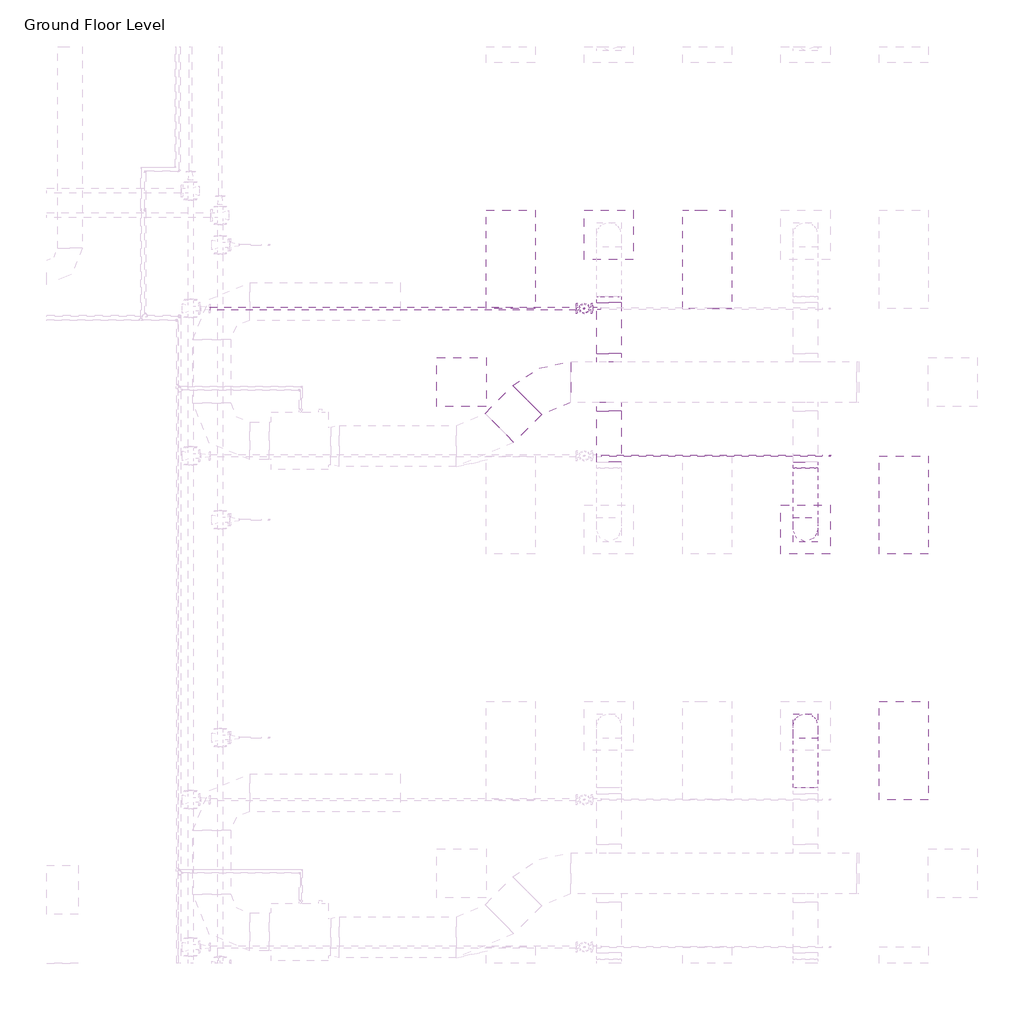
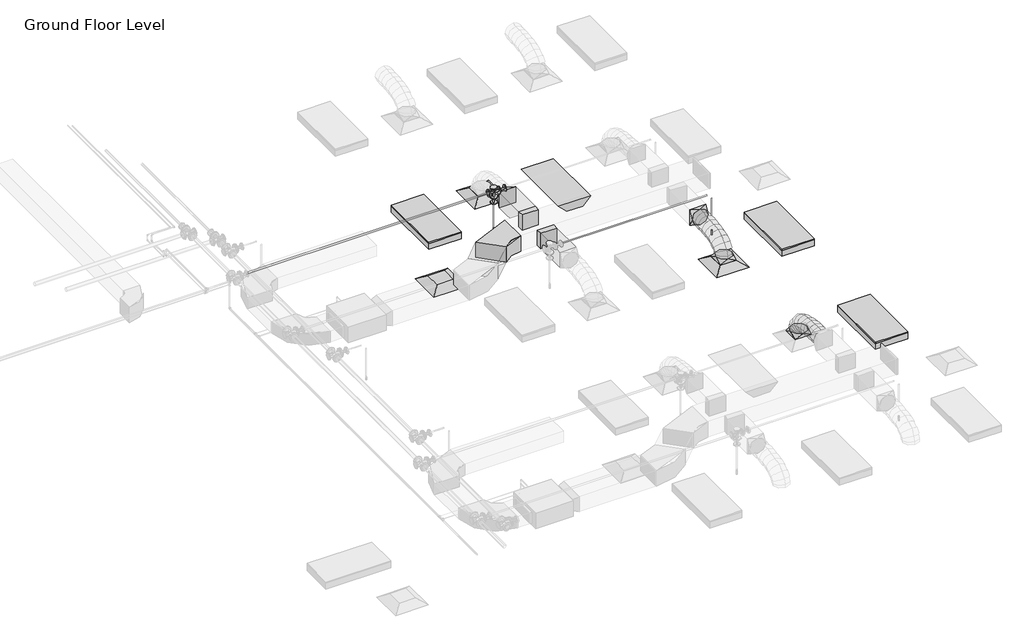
# One storey, part 69 of 74: 7 duct fittings, 5 duct segments, 4 light fixtures, 4 pipe segments, 3 air terminals, 3 pipe fittings, 2 fire suppression terminals.
"""IFC4 building model written with IfcOpenShell, lengths in millimetres."""

from ifc_helpers import new_model, si_unit, point, frame, frame_2d, origin, place, context, project, spatial, polyline, circle_curve, ellipse_curve, trimmed, segment, composite_curve, outline, extrude, transform, mapped, element, save
from ifc_brep_helpers import plane_surface, cylinder_surface, advanced_brep
from components import m_return_diffuser_600_x_600_face_300_x_300_connection_ff221211, m_rectangular_elbow_radius_1_5_w_acc56c25, m_rectangular_takeoff_standard_cb0ccb98, m_rectangular_takeoff_standard_2be5eba1, m_rectangular_to_round_transition_angle_45_degree_641efff0, m_sprinkler_dry_pendent_hosted_15_mm_dry_pendent_9bda8e11, m_emergency_recessed_lighting_fixture_600x1200_277_5b10b25d, m_troffer_light_parabolic_rectangular1_0600x1200mm_4_lamp_86473d4a, m_reducer_flanged_cs_class_150_standard_ccf252ad, m_tee_round_base_flanged_cs_class_150_standard_7e5987a1

model = new_model("IFC4")

# Units and contexts
model_context = context("Model", 3, world=origin())
ifc_project = project(units=[si_unit("LENGTHUNIT", "METRE", prefix="MILLI")], contexts=[model_context])

# Site, building, storey
site = spatial("IfcSite", under=ifc_project)
building = spatial("IfcBuilding", under=site)
storey = spatial("IfcBuildingStorey", under=building, Name="Ground Floor Level", Elevation=900.0)

# Air terminals
placement = place(None, origin())
m_return_diffuser_600_x_600_face_300_x_300_connection_shape = m_return_diffuser_600_x_600_face_300_x_300_connection_ff221211(model_context)
element("IfcAirTerminal", 1, ObjectType="M_Return Diffuser : 600 x 600 Face 300 x 300 Connection", at=placement, inside=storey, context=model_context, shape_type="MappedRepresentation", body=[
    mapped(m_return_diffuser_600_x_600_face_300_x_300_connection_shape, transform((8942.7672395, 12735.2153534, 3650.0), x_axis=(1.0, 0.0, 0.0), y_axis=(0.0, 1.0, 0.0), z_axis=(0.0, 0.0, 1.0))),
])
element("IfcAirTerminal", 2, ObjectType="M_Supply Diffuser : 600 x 600 Face 300 x 300 Connection", at=placement, inside=storey, context=model_context, shape_type="MappedRepresentation", body=[
    mapped(m_return_diffuser_600_x_600_face_300_x_300_connection_shape, transform((10742.7672395, 14535.2153534, 3650.0), x_axis=(1.0, 0.0, 0.0), y_axis=(0.0, 1.0, 0.0), z_axis=(0.0, 0.0, 1.0))),
])
element("IfcAirTerminal", 3, ObjectType="M_Supply Diffuser : 600 x 600 Face 300 x 300 Connection", at=placement, inside=storey, context=model_context, shape_type="MappedRepresentation", body=[
    mapped(m_return_diffuser_600_x_600_face_300_x_300_connection_shape, transform((13142.7672395, 10935.2153534, 3650.0), x_axis=(1.0, 0.0, 0.0), y_axis=(0.0, 1.0, 0.0), z_axis=(0.0, 0.0, 1.0))),
])

# Duct fittings
m_rectangular_elbow_radius_1_5_w_shape = m_rectangular_elbow_radius_1_5_w_acc56c25(model_context)
element("IfcDuctFitting", 4, ObjectType="M_Rectangular Elbow - Radius : 1.5 W", at=placement, inside=storey, context=model_context, shape_type="MappedRepresentation", body=[
    mapped(m_rectangular_elbow_radius_1_5_w_shape, transform((9966.7301365, 12735.2153534, 4100.0), x_axis=(-1.0, 0.0, 0.0), y_axis=(0.0, -0.9999999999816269, 6.061864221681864e-06), z_axis=(0.0, 6.061864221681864e-06, 0.9999999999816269))),
])
m_rectangular_takeoff_standard_shape = m_rectangular_takeoff_standard_cb0ccb98(model_context)
element("IfcDuctFitting", 5, ObjectType="M_Rectangular Takeoff : Standard", at=placement, inside=storey, context=model_context, shape_type="MappedRepresentation", body=[
    mapped(m_rectangular_takeoff_standard_shape, transform((10742.7672395, 12985.2153534, 4100.0), x_axis=(0.0, 1.0, 0.0), y_axis=(1.0, 0.0, 0.0), z_axis=(0.0, 0.0, -1.0))),
])
m_rectangular_takeoff_standard_2_shape = m_rectangular_takeoff_standard_2be5eba1(model_context)
element("IfcDuctFitting", 6, ObjectType="M_Rectangular Takeoff : Standard", at=placement, inside=storey, context=model_context, shape_type="MappedRepresentation", body=[
    mapped(m_rectangular_takeoff_standard_2_shape, transform((10742.7672395, 12485.2153534, 4100.0), x_axis=(0.0, -1.0, 0.0), y_axis=(-1.0, 0.0, 0.0), z_axis=(0.0, 0.0, -1.0))),
])
m_rectangular_to_round_transition_angle_45_degree_shape = m_rectangular_to_round_transition_angle_45_degree_641efff0(model_context)
element("IfcDuctFitting", 7, ObjectType="M_Rectangular to Round Transition - Angle : 45 Degree", at=placement, inside=storey, context=model_context, shape_type="MappedRepresentation", body=[
    mapped(m_rectangular_to_round_transition_angle_45_degree_shape, transform((13142.7672395, 8535.2153534, 3751.6), x_axis=(0.0, 0.0, 1.0), y_axis=(-1.0, 0.0, 0.0), z_axis=(0.0, -1.0, 0.0))),
])
element("IfcDuctFitting", 8, ObjectType="M_Rectangular to Round Transition - Angle : 45 Degree", at=placement, inside=storey, context=model_context, shape_type="MappedRepresentation", body=[
    mapped(m_rectangular_to_round_transition_angle_45_degree_shape, transform((10742.7672395, 13707.8794221, 4100.0), x_axis=(0.0, 1.0, 0.0), y_axis=(-1.0, 0.0, 0.0), z_axis=(0.0, 0.0, 1.0))),
])
element("IfcDuctFitting", 9, ObjectType="M_Rectangular to Round Transition - Angle : 45 Degree", at=placement, inside=storey, context=model_context, shape_type="MappedRepresentation", body=[
    mapped(m_rectangular_to_round_transition_angle_45_degree_shape, transform((13142.7672395, 10935.2153534, 3751.6), x_axis=(0.0, 0.0, 1.0), y_axis=(-1.0, 0.0, 0.0), z_axis=(0.0, -1.0, 0.0))),
])
element("IfcDuctFitting", 10, ObjectType="M_Rectangular to Round Transition - Angle : 45 Degree", at=placement, inside=storey, context=model_context, shape_type="MappedRepresentation", body=[
    mapped(m_rectangular_to_round_transition_angle_45_degree_shape, transform((13142.7672395, 11762.5512847, 4100.0), x_axis=(0.0, -1.0, 0.0), y_axis=(1.0, 0.0, 0.0), z_axis=(0.0, 0.0, 1.0))),
])

# Duct segments
element("IfcDuctSegment", 11, ObjectType="Flex - Round", at=placement, inside=storey, context=model_context, shape_type="AdvancedBrep", body=[
    advanced_brep(
    [(13292.7672395, 8535.2153534, 3826.6), (13142.7672395, 8385.2153534, 3826.6), (12992.7672395, 8535.2153534, 3826.6), (13142.7672395, 8685.2153534, 3826.6), (13292.7672395, 8535.2153534, 3857.9377114), (13142.7672395, 8385.2153534, 3832.2944892), (12992.7672395, 8535.2153534, 3857.9377114), (13142.7672395, 8685.2153534, 3883.5809337), (13292.7672395, 8518.1994208, 3906.2505728), (13142.7672395, 8384.4614419, 3834.435049), (12992.7672395, 8518.1994208, 3906.2505728), (13142.7672395, 8651.9373998, 3978.0660967), (13292.7672395, 8471.0155405, 3968.7113131), (13142.7672395, 8366.8096412, 3857.8020236), (12992.7672395, 8471.0155405, 3968.7113131), (13142.7672395, 8575.2214397, 4079.6206026), (13292.7672395, 8399.4595883, 4016.0700639), (13142.7672395, 8330.5255327, 3881.8163788), (12992.7672395, 8399.4595883, 4016.0700639), (13142.7672395, 8468.3936439, 4150.3237489), (13292.7672395, 8309.3274403, 4050.4146682), (13142.7672395, 8265.7666771, 3906.4925606), (12992.7672395, 8309.3274403, 4050.4146682), (13142.7672395, 8352.8882035, 4194.3367758), (13292.7672395, 8206.4149725, 4073.8329691), (13142.7672395, 8179.8540485, 3926.0424542), (12992.7672395, 8206.4149725, 4073.8329691), (13142.7672395, 8232.9758965, 4221.6234841), (13292.7672395, 8096.5180607, 4088.4128097), (13142.7672395, 8081.3671584, 3939.1085462), (12992.7672395, 8096.5180607, 4088.4128097), (13142.7672395, 8111.6689631, 4237.7170733), (13292.7672395, 7985.4325811, 4096.242033), (13142.7672395, 7977.9272529, 3946.398915), (12992.7672395, 7985.4325811, 4096.242033), (13142.7672395, 7992.9379093, 4246.085151), (13292.7672395, 7878.9544096, 4099.4084821), (13142.7672395, 7876.2629165, 3949.4222102), (12992.7672395, 7878.9544096, 4099.4084821), (13142.7672395, 7881.6459027, 4249.394754), (13292.7672395, 7782.8794221, 4100.0), (13142.7672395, 7783.8029299, 4249.9971571), (12992.7672395, 7782.8794221, 4100.0), (13142.7672395, 7781.9559143, 3950.0028429)],
    [
        (0, 1, circle_curve(frame((13142.7672395, 8535.2153534, 3826.6), z_axis=(0.0, 0.0, -1.0), x_axis=(1.0, 0.0, 0.0)), 150.0)),
        (1, 2, circle_curve(frame((13142.7672395, 8535.2153534, 3826.6), z_axis=(0.0, 0.0, -1.0), x_axis=(1.0, 0.0, 0.0)), 150.0)),
        (2, 3, circle_curve(frame((13142.7672395, 8535.2153534, 3826.6), z_axis=(0.0, 0.0, -1.0), x_axis=(1.0, 0.0, 0.0)), 150.0)),
        (3, 0, circle_curve(frame((13142.7672395, 8535.2153534, 3826.6), z_axis=(0.0, 0.0, -1.0), x_axis=(1.0, 0.0, 0.0)), 150.0)),
        (0, 4),
        (4, 5, ellipse_curve(frame((13142.7672395, 8535.2153534, 3857.9377114), z_axis=(0.0, 0.16851014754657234, -0.9856999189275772), x_axis=(0.0, -0.9856999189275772, -0.1685101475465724)), 152.176131, 150.0)),
        (5, 1),
        (5, 6, ellipse_curve(frame((13142.7672395, 8535.2153534, 3857.9377114), z_axis=(0.0, 0.16851014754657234, -0.9856999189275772), x_axis=(0.0, -0.9856999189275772, -0.1685101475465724)), 152.176131, 150.0)),
        (6, 2),
        (6, 7, ellipse_curve(frame((13142.7672395, 8535.2153534, 3857.9377114), z_axis=(0.0, 0.16851014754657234, -0.9856999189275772), x_axis=(0.0, -0.9856999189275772, -0.1685101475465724)), 152.176131, 150.0)),
        (7, 3),
        (7, 4, ellipse_curve(frame((13142.7672395, 8535.2153534, 3857.9377114), z_axis=(0.0, 0.16851014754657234, -0.9856999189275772), x_axis=(0.0, -0.9856999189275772, -0.1685101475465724)), 152.176131, 150.0)),
        (4, 8),
        (8, 9, ellipse_curve(frame((13142.7672395, 8518.1994208, 3906.2505728), z_axis=(0.0, 0.4730922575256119, -0.8810128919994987), x_axis=(0.0, -0.8810128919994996, -0.47309225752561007)), 151.8002519, 150.0)),
        (9, 5),
        (9, 10, ellipse_curve(frame((13142.7672395, 8518.1994208, 3906.2505728), z_axis=(0.0, 0.4730922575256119, -0.8810128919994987), x_axis=(0.0, -0.8810128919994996, -0.47309225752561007)), 151.8002519, 150.0)),
        (10, 6),
        (10, 11, ellipse_curve(frame((13142.7672395, 8518.1994208, 3906.2505728), z_axis=(0.0, 0.4730922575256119, -0.8810128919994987), x_axis=(0.0, -0.8810128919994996, -0.47309225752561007)), 151.8002519, 150.0)),
        (11, 7),
        (11, 8, ellipse_curve(frame((13142.7672395, 8518.1994208, 3906.2505728), z_axis=(0.0, 0.4730922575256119, -0.8810128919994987), x_axis=(0.0, -0.8810128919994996, -0.47309225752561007)), 151.8002519, 150.0)),
        (8, 12),
        (12, 13, ellipse_curve(frame((13142.7672395, 8471.0155405, 3968.7113131), z_axis=(0.0, 0.7287877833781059, -0.6847396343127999), x_axis=(0.0, -0.6847396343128, -0.7287877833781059)), 152.1832446, 150.0)),
        (13, 9),
        (13, 14, ellipse_curve(frame((13142.7672395, 8471.0155405, 3968.7113131), z_axis=(0.0, 0.7287877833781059, -0.6847396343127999), x_axis=(0.0, -0.6847396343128, -0.7287877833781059)), 152.1832446, 150.0)),
        (14, 10),
        (14, 15, ellipse_curve(frame((13142.7672395, 8471.0155405, 3968.7113131), z_axis=(0.0, 0.7287877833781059, -0.6847396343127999), x_axis=(0.0, -0.6847396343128, -0.7287877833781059)), 152.1832446, 150.0)),
        (15, 11),
        (15, 12, ellipse_curve(frame((13142.7672395, 8471.0155405, 3968.7113131), z_axis=(0.0, 0.7287877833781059, -0.6847396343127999), x_axis=(0.0, -0.6847396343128, -0.7287877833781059)), 152.1832446, 150.0)),
        (12, 16),
        (16, 17, ellipse_curve(frame((13142.7672395, 8399.4595883, 4016.0700639), z_axis=(0.0, 0.8895859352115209, -0.4567678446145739), x_axis=(0.0, -0.4567678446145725, -0.8895859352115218)), 150.91705, 150.0)),
        (17, 13),
        (17, 18, ellipse_curve(frame((13142.7672395, 8399.4595883, 4016.0700639), z_axis=(0.0, 0.8895859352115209, -0.4567678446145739), x_axis=(0.0, -0.4567678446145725, -0.8895859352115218)), 150.91705, 150.0)),
        (18, 14),
        (18, 19, ellipse_curve(frame((13142.7672395, 8399.4595883, 4016.0700639), z_axis=(0.0, 0.8895859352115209, -0.4567678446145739), x_axis=(0.0, -0.4567678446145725, -0.8895859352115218)), 150.91705, 150.0)),
        (19, 15),
        (19, 16, ellipse_curve(frame((13142.7672395, 8399.4595883, 4016.0700639), z_axis=(0.0, 0.8895859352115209, -0.4567678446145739), x_axis=(0.0, -0.4567678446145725, -0.8895859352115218)), 150.91705, 150.0)),
        (16, 20),
        (20, 21, ellipse_curve(frame((13142.7672395, 8309.3274403, 4050.4146682), z_axis=(0.0, 0.9571203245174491, -0.28969067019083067), x_axis=(0.0, -0.28969067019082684, -0.9571203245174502)), 150.369921, 150.0)),
        (21, 17),
        (21, 22, ellipse_curve(frame((13142.7672395, 8309.3274403, 4050.4146682), z_axis=(0.0, 0.9571203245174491, -0.28969067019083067), x_axis=(0.0, -0.28969067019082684, -0.9571203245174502)), 150.369921, 150.0)),
        (22, 18),
        (22, 23, ellipse_curve(frame((13142.7672395, 8309.3274403, 4050.4146682), z_axis=(0.0, 0.9571203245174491, -0.28969067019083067), x_axis=(0.0, -0.28969067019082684, -0.9571203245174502)), 150.369921, 150.0)),
        (23, 19),
        (23, 20, ellipse_curve(frame((13142.7672395, 8309.3274403, 4050.4146682), z_axis=(0.0, 0.9571203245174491, -0.28969067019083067), x_axis=(0.0, -0.28969067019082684, -0.9571203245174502)), 150.369921, 150.0)),
        (20, 24),
        (24, 25, ellipse_curve(frame((13142.7672395, 8206.4149725, 4073.8329691), z_axis=(0.0, 0.9842313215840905, -0.17688613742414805), x_axis=(0.0, -0.17688613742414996, -0.9842313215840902)), 150.1583131, 150.0)),
        (25, 21),
        (25, 26, ellipse_curve(frame((13142.7672395, 8206.4149725, 4073.8329691), z_axis=(0.0, 0.9842313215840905, -0.17688613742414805), x_axis=(0.0, -0.17688613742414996, -0.9842313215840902)), 150.1583131, 150.0)),
        (26, 22),
        (26, 27, ellipse_curve(frame((13142.7672395, 8206.4149725, 4073.8329691), z_axis=(0.0, 0.9842313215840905, -0.17688613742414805), x_axis=(0.0, -0.17688613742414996, -0.9842313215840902)), 150.1583131, 150.0)),
        (27, 23),
        (27, 24, ellipse_curve(frame((13142.7672395, 8206.4149725, 4073.8329691), z_axis=(0.0, 0.9842313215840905, -0.17688613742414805), x_axis=(0.0, -0.17688613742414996, -0.9842313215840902)), 150.1583131, 150.0)),
        (24, 28),
        (28, 29, ellipse_curve(frame((13142.7672395, 8096.5180607, 4088.4128097), z_axis=(0.0, 0.9948906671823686, -0.10095821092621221), x_axis=(0.0, -0.10095821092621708, -0.9948906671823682)), 150.0710264, 150.0)),
        (29, 25),
        (29, 30, ellipse_curve(frame((13142.7672395, 8096.5180607, 4088.4128097), z_axis=(0.0, 0.9948906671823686, -0.10095821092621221), x_axis=(0.0, -0.10095821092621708, -0.9948906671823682)), 150.0710264, 150.0)),
        (30, 26),
        (30, 31, ellipse_curve(frame((13142.7672395, 8096.5180607, 4088.4128097), z_axis=(0.0, 0.9948906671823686, -0.10095821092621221), x_axis=(0.0, -0.10095821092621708, -0.9948906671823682)), 150.0710264, 150.0)),
        (31, 27),
        (31, 28, ellipse_curve(frame((13142.7672395, 8096.5180607, 4088.4128097), z_axis=(0.0, 0.9948906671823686, -0.10095821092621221), x_axis=(0.0, -0.10095821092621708, -0.9948906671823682)), 150.0710264, 150.0)),
        (28, 32),
        (32, 33, ellipse_curve(frame((13142.7672395, 7985.4325811, 4096.242033), z_axis=(0.0, 0.9987479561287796, -0.05002519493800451), x_axis=(0.0, -0.050025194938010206, -0.9987479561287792)), 150.0309634, 150.0)),
        (33, 29),
        (33, 34, ellipse_curve(frame((13142.7672395, 7985.4325811, 4096.242033), z_axis=(0.0, 0.9987479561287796, -0.05002519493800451), x_axis=(0.0, -0.050025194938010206, -0.9987479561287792)), 150.0309634, 150.0)),
        (34, 30),
        (34, 35, ellipse_curve(frame((13142.7672395, 7985.4325811, 4096.242033), z_axis=(0.0, 0.9987479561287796, -0.05002519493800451), x_axis=(0.0, -0.050025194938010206, -0.9987479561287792)), 150.0309634, 150.0)),
        (35, 31),
        (35, 32, ellipse_curve(frame((13142.7672395, 7985.4325811, 4096.242033), z_axis=(0.0, 0.9987479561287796, -0.05002519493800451), x_axis=(0.0, -0.050025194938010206, -0.9987479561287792)), 150.0309634, 150.0)),
        (32, 36),
        (36, 37, ellipse_curve(frame((13142.7672395, 7878.9544096, 4099.4084821), z_axis=(0.0, 0.9998390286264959, -0.017942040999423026), x_axis=(0.0, -0.01794204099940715, -0.9998390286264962)), 150.0104193, 150.0)),
        (37, 33),
        (37, 38, ellipse_curve(frame((13142.7672395, 7878.9544096, 4099.4084821), z_axis=(0.0, 0.9998390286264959, -0.017942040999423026), x_axis=(0.0, -0.01794204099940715, -0.9998390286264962)), 150.0104193, 150.0)),
        (38, 34),
        (38, 39, ellipse_curve(frame((13142.7672395, 7878.9544096, 4099.4084821), z_axis=(0.0, 0.9998390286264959, -0.017942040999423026), x_axis=(0.0, -0.01794204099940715, -0.9998390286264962)), 150.0104193, 150.0)),
        (39, 35),
        (39, 36, ellipse_curve(frame((13142.7672395, 7878.9544096, 4099.4084821), z_axis=(0.0, 0.9998390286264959, -0.017942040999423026), x_axis=(0.0, -0.01794204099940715, -0.9998390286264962)), 150.0104193, 150.0)),
        (40, 41, circle_curve(frame((13142.7672395, 7782.8794221, 4100.0), z_axis=(0.0, -0.9999810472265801, 0.006156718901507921), x_axis=(1.0, 0.0, 0.0)), 150.0)),
        (41, 42, circle_curve(frame((13142.7672395, 7782.8794221, 4100.0), z_axis=(0.0, -0.9999810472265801, 0.006156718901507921), x_axis=(1.0, 0.0, 0.0)), 150.0)),
        (42, 43, circle_curve(frame((13142.7672395, 7782.8794221, 4100.0), z_axis=(0.0, -0.9999810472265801, 0.006156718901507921), x_axis=(1.0, 0.0, 0.0)), 150.0)),
        (43, 40, circle_curve(frame((13142.7672395, 7782.8794221, 4100.0), z_axis=(0.0, -0.9999810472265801, 0.006156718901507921), x_axis=(1.0, 0.0, 0.0)), 150.0)),
        (36, 40),
        (43, 37),
        (42, 38),
        (41, 39),
    ],
    [
        plane_surface(frame((13142.7672395, 8385.2153534, 3826.6), z_axis=(0.0, 0.0, -1.0), x_axis=(1.0, 0.0, 0.0))),
        cylinder_surface(frame((13142.7672395, 8535.2153534, 3826.6), z_axis=(0.0, 0.0, -1.0), x_axis=(1.0, 0.0, 0.0)), 150.0),
        cylinder_surface(frame((13142.7672395, 8535.2153534, 3857.9377114), z_axis=(0.0, 0.3322008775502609, -0.9432086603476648), x_axis=(1.0, 0.0, 0.0)), 150.0),
        cylinder_surface(frame((13142.7672395, 8518.1994208, 3906.2505728), z_axis=(0.0, 0.6027625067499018, -0.7979206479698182), x_axis=(1.0, 0.0, 0.0)), 150.0),
        cylinder_surface(frame((13142.7672395, 8471.0155405, 3968.7113131), z_axis=(0.0, 0.8339024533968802, -0.5519118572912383), x_axis=(1.0, 0.0, 0.0)), 150.0),
        cylinder_surface(frame((13142.7672395, 8399.4595883, 4016.0700639), z_axis=(0.0, 0.934458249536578, -0.35607271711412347), x_axis=(1.0, 0.0, 0.0)), 150.0),
        cylinder_surface(frame((13142.7672395, 8309.3274403, 4050.4146682), z_axis=(0.0, 0.9750732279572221, -0.22188330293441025), x_axis=(1.0, 0.0, 0.0)), 150.0),
        cylinder_surface(frame((13142.7672395, 8206.4149725, 4073.8329691), z_axis=(0.0, 0.9913140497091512, -0.1315159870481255), x_axis=(1.0, 0.0, 0.0)), 150.0),
        cylinder_surface(frame((13142.7672395, 8096.5180607, 4088.4128097), z_axis=(0.0, 0.9975255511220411, -0.07030487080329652), x_axis=(1.0, 0.0, 0.0)), 150.0),
        cylinder_surface(frame((13142.7672395, 7985.4325811, 4096.242033), z_axis=(0.0, 0.9995581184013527, -0.02972487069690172), x_axis=(1.0, 0.0, 0.0)), 150.0),
        plane_surface(frame((13142.7672395, 7781.9559143, 3950.0028429), z_axis=(0.0, -0.9999810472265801, 0.006156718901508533), x_axis=(1.0, 0.0, 0.0))),
        cylinder_surface(frame((13142.7672395, 7878.9544096, 4099.4084821), z_axis=(0.0, 0.9999810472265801, -0.006156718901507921), x_axis=(1.0, 0.0, 0.0)), 150.0),
    ],
    [
        (0, [[1, 2, 3, 4]]),
        (1, [[-1, 5, 6, 7]]),
        (1, [[-2, -7, 8, 9]]),
        (1, [[-3, -9, 10, 11]]),
        (1, [[-4, -11, 12, -5]]),
        (2, [[-6, 13, 14, 15]]),
        (2, [[-8, -15, 16, 17]]),
        (2, [[-10, -17, 18, 19]]),
        (2, [[-12, -19, 20, -13]]),
        (3, [[-14, 21, 22, 23]]),
        (3, [[-16, -23, 24, 25]]),
        (3, [[-18, -25, 26, 27]]),
        (3, [[-20, -27, 28, -21]]),
        (4, [[-22, 29, 30, 31]]),
        (4, [[-24, -31, 32, 33]]),
        (4, [[-26, -33, 34, 35]]),
        (4, [[-28, -35, 36, -29]]),
        (5, [[-30, 37, 38, 39]]),
        (5, [[-32, -39, 40, 41]]),
        (5, [[-34, -41, 42, 43]]),
        (5, [[-36, -43, 44, -37]]),
        (6, [[-38, 45, 46, 47]]),
        (6, [[-40, -47, 48, 49]]),
        (6, [[-42, -49, 50, 51]]),
        (6, [[-44, -51, 52, -45]]),
        (7, [[-46, 53, 54, 55]]),
        (7, [[-48, -55, 56, 57]]),
        (7, [[-50, -57, 58, 59]]),
        (7, [[-52, -59, 60, -53]]),
        (8, [[-54, 61, 62, 63]]),
        (8, [[-56, -63, 64, 65]]),
        (8, [[-58, -65, 66, 67]]),
        (8, [[-60, -67, 68, -61]]),
        (9, [[-62, 69, 70, 71]]),
        (9, [[-64, -71, 72, 73]]),
        (9, [[-66, -73, 74, 75]]),
        (9, [[-68, -75, 76, -69]]),
        (10, [[77, 78, 79, 80]]),
        (11, [[-70, 81, -80, 82]]),
        (11, [[-72, -82, -79, 83]]),
        (11, [[-74, -83, -78, 84]]),
        (11, [[-76, -84, -77, -81]]),
    ],
),
])
element("IfcDuctSegment", 12, ObjectType="Flex - Round", at=placement, inside=storey, context=model_context, shape_type="AdvancedBrep", body=[
    advanced_brep(
    [(13292.7672395, 10935.2153534, 3826.6), (13142.7672395, 10785.2153534, 3826.6), (12992.7672395, 10935.2153534, 3826.6), (13142.7672395, 11085.2153534, 3826.6), (13292.7672395, 10935.2153534, 3857.9377114), (13142.7672395, 10785.2153534, 3883.5809337), (12992.7672395, 10935.2153534, 3857.9377114), (13142.7672395, 11085.2153534, 3832.2944892), (13292.7672395, 10952.2312859, 3906.2505728), (13142.7672395, 10818.493307, 3978.0660967), (12992.7672395, 10952.2312859, 3906.2505728), (13142.7672395, 11085.9692649, 3834.435049), (13292.7672395, 10999.4151663, 3968.7113131), (13142.7672395, 10895.209267, 4079.6206026), (12992.7672395, 10999.4151663, 3968.7113131), (13142.7672395, 11103.6210655, 3857.8020236), (13292.7672395, 11070.9711184, 4016.0700639), (13142.7672395, 11002.0370628, 4150.3237489), (12992.7672395, 11070.9711184, 4016.0700639), (13142.7672395, 11139.9051741, 3881.8163788), (13292.7672395, 11161.1032664, 4050.4146682), (13142.7672395, 11117.5425033, 4194.3367758), (12992.7672395, 11161.1032664, 4050.4146682), (13142.7672395, 11204.6640296, 3906.4925606), (13292.7672395, 11264.0157343, 4073.8329691), (13142.7672395, 11237.4548103, 4221.6234841), (12992.7672395, 11264.0157343, 4073.8329691), (13142.7672395, 11290.5766583, 3926.0424542), (13292.7672395, 11373.912646, 4088.4128097), (13142.7672395, 11358.7617437, 4237.7170733), (12992.7672395, 11373.912646, 4088.4128097), (13142.7672395, 11389.0635483, 3939.1085462), (13292.7672395, 11484.9981256, 4096.242033), (13142.7672395, 11477.4927975, 4246.085151), (12992.7672395, 11484.9981256, 4096.242033), (13142.7672395, 11492.5034538, 3946.398915), (13292.7672395, 11591.4762972, 4099.4084821), (13142.7672395, 11588.7848041, 4249.394754), (12992.7672395, 11591.4762972, 4099.4084821), (13142.7672395, 11594.1677903, 3949.4222102), (13292.7672395, 11687.5512847, 4100.0), (13142.7672395, 11688.4747925, 3950.0028429), (12992.7672395, 11687.5512847, 4100.0), (13142.7672395, 11686.6277768, 4249.9971571)],
    [
        (0, 1, circle_curve(frame((13142.7672395, 10935.2153534, 3826.6), z_axis=(0.0, 0.0, -1.0), x_axis=(1.0, 0.0, 0.0)), 150.0)),
        (1, 2, circle_curve(frame((13142.7672395, 10935.2153534, 3826.6), z_axis=(0.0, 0.0, -1.0), x_axis=(1.0, 0.0, 0.0)), 150.0)),
        (2, 3, circle_curve(frame((13142.7672395, 10935.2153534, 3826.6), z_axis=(0.0, 0.0, -1.0), x_axis=(1.0, 0.0, 0.0)), 150.0)),
        (3, 0, circle_curve(frame((13142.7672395, 10935.2153534, 3826.6), z_axis=(0.0, 0.0, -1.0), x_axis=(1.0, 0.0, 0.0)), 150.0)),
        (0, 4),
        (4, 5, ellipse_curve(frame((13142.7672395, 10935.2153534, 3857.9377114), z_axis=(0.0, -0.16851014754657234, -0.9856999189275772), x_axis=(0.0, 0.9856999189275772, -0.1685101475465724)), 152.176131, 150.0)),
        (5, 1),
        (5, 6, ellipse_curve(frame((13142.7672395, 10935.2153534, 3857.9377114), z_axis=(0.0, -0.16851014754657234, -0.9856999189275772), x_axis=(0.0, 0.9856999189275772, -0.1685101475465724)), 152.176131, 150.0)),
        (6, 2),
        (6, 7, ellipse_curve(frame((13142.7672395, 10935.2153534, 3857.9377114), z_axis=(0.0, -0.16851014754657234, -0.9856999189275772), x_axis=(0.0, 0.9856999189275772, -0.1685101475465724)), 152.176131, 150.0)),
        (7, 3),
        (7, 4, ellipse_curve(frame((13142.7672395, 10935.2153534, 3857.9377114), z_axis=(0.0, -0.16851014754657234, -0.9856999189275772), x_axis=(0.0, 0.9856999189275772, -0.1685101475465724)), 152.176131, 150.0)),
        (4, 8),
        (8, 9, ellipse_curve(frame((13142.7672395, 10952.2312859, 3906.2505728), z_axis=(0.0, -0.47309225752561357, -0.8810128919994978), x_axis=(0.0, 0.8810128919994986, -0.47309225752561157)), 151.8002519, 150.0)),
        (9, 5),
        (9, 10, ellipse_curve(frame((13142.7672395, 10952.2312859, 3906.2505728), z_axis=(0.0, -0.47309225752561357, -0.8810128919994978), x_axis=(0.0, 0.8810128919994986, -0.47309225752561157)), 151.8002519, 150.0)),
        (10, 6),
        (10, 11, ellipse_curve(frame((13142.7672395, 10952.2312859, 3906.2505728), z_axis=(0.0, -0.47309225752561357, -0.8810128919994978), x_axis=(0.0, 0.8810128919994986, -0.47309225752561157)), 151.8002519, 150.0)),
        (11, 7),
        (11, 8, ellipse_curve(frame((13142.7672395, 10952.2312859, 3906.2505728), z_axis=(0.0, -0.47309225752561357, -0.8810128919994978), x_axis=(0.0, 0.8810128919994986, -0.47309225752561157)), 151.8002519, 150.0)),
        (8, 12),
        (12, 13, ellipse_curve(frame((13142.7672395, 10999.4151663, 3968.7113131), z_axis=(0.0, -0.7287877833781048, -0.6847396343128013), x_axis=(0.0, 0.6847396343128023, -0.7287877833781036)), 152.1832446, 150.0)),
        (13, 9),
        (13, 14, ellipse_curve(frame((13142.7672395, 10999.4151663, 3968.7113131), z_axis=(0.0, -0.7287877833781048, -0.6847396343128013), x_axis=(0.0, 0.6847396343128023, -0.7287877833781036)), 152.1832446, 150.0)),
        (14, 10),
        (14, 15, ellipse_curve(frame((13142.7672395, 10999.4151663, 3968.7113131), z_axis=(0.0, -0.7287877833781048, -0.6847396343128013), x_axis=(0.0, 0.6847396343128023, -0.7287877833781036)), 152.1832446, 150.0)),
        (15, 11),
        (15, 12, ellipse_curve(frame((13142.7672395, 10999.4151663, 3968.7113131), z_axis=(0.0, -0.7287877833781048, -0.6847396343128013), x_axis=(0.0, 0.6847396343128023, -0.7287877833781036)), 152.1832446, 150.0)),
        (12, 16),
        (16, 17, ellipse_curve(frame((13142.7672395, 11070.9711184, 4016.0700639), z_axis=(0.0, -0.8895859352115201, -0.45676784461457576), x_axis=(0.0, 0.45676784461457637, -0.8895859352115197)), 150.91705, 150.0)),
        (17, 13),
        (17, 18, ellipse_curve(frame((13142.7672395, 11070.9711184, 4016.0700639), z_axis=(0.0, -0.8895859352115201, -0.45676784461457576), x_axis=(0.0, 0.45676784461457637, -0.8895859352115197)), 150.91705, 150.0)),
        (18, 14),
        (18, 19, ellipse_curve(frame((13142.7672395, 11070.9711184, 4016.0700639), z_axis=(0.0, -0.8895859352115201, -0.45676784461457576), x_axis=(0.0, 0.45676784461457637, -0.8895859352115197)), 150.91705, 150.0)),
        (19, 15),
        (19, 16, ellipse_curve(frame((13142.7672395, 11070.9711184, 4016.0700639), z_axis=(0.0, -0.8895859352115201, -0.45676784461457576), x_axis=(0.0, 0.45676784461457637, -0.8895859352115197)), 150.91705, 150.0)),
        (16, 20),
        (20, 21, ellipse_curve(frame((13142.7672395, 11161.1032664, 4050.4146682), z_axis=(0.0, -0.9571203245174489, -0.2896906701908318), x_axis=(0.0, 0.28969067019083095, -0.9571203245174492)), 150.369921, 150.0)),
        (21, 17),
        (21, 22, ellipse_curve(frame((13142.7672395, 11161.1032664, 4050.4146682), z_axis=(0.0, -0.9571203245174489, -0.2896906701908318), x_axis=(0.0, 0.28969067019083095, -0.9571203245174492)), 150.369921, 150.0)),
        (22, 18),
        (22, 23, ellipse_curve(frame((13142.7672395, 11161.1032664, 4050.4146682), z_axis=(0.0, -0.9571203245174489, -0.2896906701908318), x_axis=(0.0, 0.28969067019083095, -0.9571203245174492)), 150.369921, 150.0)),
        (23, 19),
        (23, 20, ellipse_curve(frame((13142.7672395, 11161.1032664, 4050.4146682), z_axis=(0.0, -0.9571203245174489, -0.2896906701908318), x_axis=(0.0, 0.28969067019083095, -0.9571203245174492)), 150.369921, 150.0)),
        (20, 24),
        (24, 25, ellipse_curve(frame((13142.7672395, 11264.0157343, 4073.8329691), z_axis=(0.0, -0.9842313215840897, -0.17688613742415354), x_axis=(0.0, 0.1768861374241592, -0.9842313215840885)), 150.1583131, 150.0)),
        (25, 21),
        (25, 26, ellipse_curve(frame((13142.7672395, 11264.0157343, 4073.8329691), z_axis=(0.0, -0.9842313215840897, -0.17688613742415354), x_axis=(0.0, 0.1768861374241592, -0.9842313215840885)), 150.1583131, 150.0)),
        (26, 22),
        (26, 27, ellipse_curve(frame((13142.7672395, 11264.0157343, 4073.8329691), z_axis=(0.0, -0.9842313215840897, -0.17688613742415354), x_axis=(0.0, 0.1768861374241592, -0.9842313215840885)), 150.1583131, 150.0)),
        (27, 23),
        (27, 24, ellipse_curve(frame((13142.7672395, 11264.0157343, 4073.8329691), z_axis=(0.0, -0.9842313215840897, -0.17688613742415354), x_axis=(0.0, 0.1768861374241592, -0.9842313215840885)), 150.1583131, 150.0)),
        (24, 28),
        (28, 29, ellipse_curve(frame((13142.7672395, 11373.912646, 4088.4128097), z_axis=(0.0, -0.9948906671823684, -0.10095821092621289), x_axis=(0.0, 0.10095821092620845, -0.9948906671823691)), 150.0710264, 150.0)),
        (29, 25),
        (29, 30, ellipse_curve(frame((13142.7672395, 11373.912646, 4088.4128097), z_axis=(0.0, -0.9948906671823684, -0.10095821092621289), x_axis=(0.0, 0.10095821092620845, -0.9948906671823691)), 150.0710264, 150.0)),
        (30, 26),
        (30, 31, ellipse_curve(frame((13142.7672395, 11373.912646, 4088.4128097), z_axis=(0.0, -0.9948906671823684, -0.10095821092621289), x_axis=(0.0, 0.10095821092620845, -0.9948906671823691)), 150.0710264, 150.0)),
        (31, 27),
        (31, 28, ellipse_curve(frame((13142.7672395, 11373.912646, 4088.4128097), z_axis=(0.0, -0.9948906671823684, -0.10095821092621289), x_axis=(0.0, 0.10095821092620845, -0.9948906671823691)), 150.0710264, 150.0)),
        (28, 32),
        (32, 33, ellipse_curve(frame((13142.7672395, 11484.9981256, 4096.242033), z_axis=(0.0, -0.9987479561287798, -0.050025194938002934), x_axis=(0.0, 0.05002519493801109, -0.9987479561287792)), 150.0309634, 150.0)),
        (33, 29),
        (33, 34, ellipse_curve(frame((13142.7672395, 11484.9981256, 4096.242033), z_axis=(0.0, -0.9987479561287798, -0.050025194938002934), x_axis=(0.0, 0.05002519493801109, -0.9987479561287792)), 150.0309634, 150.0)),
        (34, 30),
        (34, 35, ellipse_curve(frame((13142.7672395, 11484.9981256, 4096.242033), z_axis=(0.0, -0.9987479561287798, -0.050025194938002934), x_axis=(0.0, 0.05002519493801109, -0.9987479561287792)), 150.0309634, 150.0)),
        (35, 31),
        (35, 32, ellipse_curve(frame((13142.7672395, 11484.9981256, 4096.242033), z_axis=(0.0, -0.9987479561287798, -0.050025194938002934), x_axis=(0.0, 0.05002519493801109, -0.9987479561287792)), 150.0309634, 150.0)),
        (32, 36),
        (36, 37, ellipse_curve(frame((13142.7672395, 11591.4762972, 4099.4084821), z_axis=(0.0, -0.9998390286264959, -0.017942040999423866), x_axis=(0.0, 0.017942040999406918, -0.9998390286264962)), 150.0104193, 150.0)),
        (37, 33),
        (37, 38, ellipse_curve(frame((13142.7672395, 11591.4762972, 4099.4084821), z_axis=(0.0, -0.9998390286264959, -0.017942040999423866), x_axis=(0.0, 0.017942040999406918, -0.9998390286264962)), 150.0104193, 150.0)),
        (38, 34),
        (38, 39, ellipse_curve(frame((13142.7672395, 11591.4762972, 4099.4084821), z_axis=(0.0, -0.9998390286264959, -0.017942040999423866), x_axis=(0.0, 0.017942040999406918, -0.9998390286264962)), 150.0104193, 150.0)),
        (39, 35),
        (39, 36, ellipse_curve(frame((13142.7672395, 11591.4762972, 4099.4084821), z_axis=(0.0, -0.9998390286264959, -0.017942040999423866), x_axis=(0.0, 0.017942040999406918, -0.9998390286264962)), 150.0104193, 150.0)),
        (40, 41, circle_curve(frame((13142.7672395, 11687.5512847, 4100.0), z_axis=(0.0, 0.9999810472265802, 0.006156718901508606), x_axis=(1.0, 0.0, 0.0)), 150.0)),
        (41, 42, circle_curve(frame((13142.7672395, 11687.5512847, 4100.0), z_axis=(0.0, 0.9999810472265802, 0.006156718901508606), x_axis=(1.0, 0.0, 0.0)), 150.0)),
        (42, 43, circle_curve(frame((13142.7672395, 11687.5512847, 4100.0), z_axis=(0.0, 0.9999810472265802, 0.006156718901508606), x_axis=(1.0, 0.0, 0.0)), 150.0)),
        (43, 40, circle_curve(frame((13142.7672395, 11687.5512847, 4100.0), z_axis=(0.0, 0.9999810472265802, 0.006156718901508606), x_axis=(1.0, 0.0, 0.0)), 150.0)),
        (36, 40),
        (43, 37),
        (42, 38),
        (41, 39),
    ],
    [
        plane_surface(frame((13142.7672395, 10785.2153534, 3826.6), z_axis=(0.0, 0.0, -1.0), x_axis=(1.0, 0.0, 0.0))),
        cylinder_surface(frame((13142.7672395, 10935.2153534, 3826.6), z_axis=(0.0, 0.0, -1.0), x_axis=(1.0, 0.0, 0.0)), 150.0),
        cylinder_surface(frame((13142.7672395, 10935.2153534, 3857.9377114), z_axis=(0.0, -0.3322008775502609, -0.9432086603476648), x_axis=(1.0, 0.0, 0.0)), 150.0),
        cylinder_surface(frame((13142.7672395, 10952.2312859, 3906.2505728), z_axis=(0.0, -0.6027625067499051, -0.7979206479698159), x_axis=(1.0, 0.0, 0.0)), 150.0),
        cylinder_surface(frame((13142.7672395, 10999.4151663, 3968.7113131), z_axis=(0.0, -0.833902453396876, -0.5519118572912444), x_axis=(1.0, 0.0, 0.0)), 150.0),
        cylinder_surface(frame((13142.7672395, 11070.9711184, 4016.0700639), z_axis=(0.0, -0.9344582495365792, -0.35607271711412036), x_axis=(1.0, 0.0, 0.0)), 150.0),
        cylinder_surface(frame((13142.7672395, 11161.1032664, 4050.4146682), z_axis=(0.0, -0.9750732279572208, -0.22188330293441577), x_axis=(1.0, 0.0, 0.0)), 150.0),
        cylinder_surface(frame((13142.7672395, 11264.0157343, 4073.8329691), z_axis=(0.0, -0.9913140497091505, -0.131515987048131), x_axis=(1.0, 0.0, 0.0)), 150.0),
        cylinder_surface(frame((13142.7672395, 11373.912646, 4088.4128097), z_axis=(0.0, -0.9975255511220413, -0.07030487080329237), x_axis=(1.0, 0.0, 0.0)), 150.0),
        cylinder_surface(frame((13142.7672395, 11484.9981256, 4096.242033), z_axis=(0.0, -0.9995581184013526, -0.029724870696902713), x_axis=(1.0, 0.0, 0.0)), 150.0),
        plane_surface(frame((13142.7672395, 11686.6277768, 4249.9971571), z_axis=(0.0, 0.9999810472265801, 0.0061567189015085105), x_axis=(1.0, 0.0, 0.0))),
        cylinder_surface(frame((13142.7672395, 11591.4762972, 4099.4084821), z_axis=(0.0, -0.9999810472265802, -0.006156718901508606), x_axis=(1.0, 0.0, 0.0)), 150.0),
    ],
    [
        (0, [[1, 2, 3, 4]]),
        (1, [[-1, 5, 6, 7]]),
        (1, [[-2, -7, 8, 9]]),
        (1, [[-3, -9, 10, 11]]),
        (1, [[-4, -11, 12, -5]]),
        (2, [[-6, 13, 14, 15]]),
        (2, [[-8, -15, 16, 17]]),
        (2, [[-10, -17, 18, 19]]),
        (2, [[-12, -19, 20, -13]]),
        (3, [[-14, 21, 22, 23]]),
        (3, [[-16, -23, 24, 25]]),
        (3, [[-18, -25, 26, 27]]),
        (3, [[-20, -27, 28, -21]]),
        (4, [[-22, 29, 30, 31]]),
        (4, [[-24, -31, 32, 33]]),
        (4, [[-26, -33, 34, 35]]),
        (4, [[-28, -35, 36, -29]]),
        (5, [[-30, 37, 38, 39]]),
        (5, [[-32, -39, 40, 41]]),
        (5, [[-34, -41, 42, 43]]),
        (5, [[-36, -43, 44, -37]]),
        (6, [[-38, 45, 46, 47]]),
        (6, [[-40, -47, 48, 49]]),
        (6, [[-42, -49, 50, 51]]),
        (6, [[-44, -51, 52, -45]]),
        (7, [[-46, 53, 54, 55]]),
        (7, [[-48, -55, 56, 57]]),
        (7, [[-50, -57, 58, 59]]),
        (7, [[-52, -59, 60, -53]]),
        (8, [[-54, 61, 62, 63]]),
        (8, [[-56, -63, 64, 65]]),
        (8, [[-58, -65, 66, 67]]),
        (8, [[-60, -67, 68, -61]]),
        (9, [[-62, 69, 70, 71]]),
        (9, [[-64, -71, 72, 73]]),
        (9, [[-66, -73, 74, 75]]),
        (9, [[-68, -75, 76, -69]]),
        (10, [[77, 78, 79, 80]]),
        (11, [[-70, 81, -80, 82]]),
        (11, [[-72, -82, -79, 83]]),
        (11, [[-74, -83, -78, 84]]),
        (11, [[-76, -84, -77, -81]]),
    ],
),
])
element("IfcDuctSegment", 13, ObjectType="Radius Elbows / Taps", at=placement, inside=storey, context=model_context, shape_type="SweptSolid", body=[
    extrude(outline(polyline([(9584.1393452, 11999.0711715), (9230.5859546, 12352.6245621), (9570.2835271, 12692.3221346), (9923.8369177, 12338.768744), (9584.1393452, 11999.0711715)])), frame((0.0, 0.0, 3950.0033908), z_axis=(0.0, 0.0, 1.0), x_axis=(1.0, 0.0, 0.0)), (0.0, 0.0, 1.0), 300.0),
])
element("IfcDuctSegment", 14, ObjectType="Radius Elbows / Taps", at=placement, inside=storey, context=model_context, shape_type="SweptSolid", body=[
    extrude(outline(polyline([(10892.7672395, 13086.8153534), (10592.7672395, 13086.8153534), (10592.7672395, 13707.8794221), (10892.7672395, 13707.8794221), (10892.7672395, 13086.8153534)])), frame((0.0, 0.0, 3950.0), z_axis=(0.0, 0.0, 1.0), x_axis=(1.0, 0.0, 0.0)), (0.0, 0.0, 1.0), 300.0),
])
element("IfcDuctSegment", 15, ObjectType="Radius Elbows / Taps", at=placement, inside=storey, context=model_context, shape_type="SweptSolid", body=[
    extrude(outline(polyline([(10592.7672395, 12383.6153534), (10892.7672395, 12383.6153534), (10892.7672395, 11762.5512847), (10592.7672395, 11762.5512847), (10592.7672395, 12383.6153534)])), frame((0.0, 0.0, 3950.0), z_axis=(0.0, 0.0, 1.0), x_axis=(1.0, 0.0, 0.0)), (0.0, 0.0, 1.0), 300.0),
])

# Fire suppression terminals
m_sprinkler_dry_pendent_hosted_15_mm_dry_pendent_shape = m_sprinkler_dry_pendent_hosted_15_mm_dry_pendent_9bda8e11(model_context)
element("IfcFireSuppressionTerminal", 16, ObjectType="M_Sprinkler - Dry - Pendent - Hosted : 15 mm Dry Pendent", at=placement, inside=storey, context=model_context, shape_type="MappedRepresentation", body=[
    mapped(m_sprinkler_dry_pendent_hosted_15_mm_dry_pendent_shape, transform((10442.7672395, 13635.2153534, 3650.0), x_axis=(1.0, 0.0, 0.0), y_axis=(0.0, -1.0, 0.0), z_axis=(0.0, 0.0, -1.0))),
])
element("IfcFireSuppressionTerminal", 17, ObjectType="M_Sprinkler - Dry - Pendent - Hosted : 15 mm Dry Pendent", at=placement, inside=storey, context=model_context, shape_type="MappedRepresentation", body=[
    mapped(m_sprinkler_dry_pendent_hosted_15_mm_dry_pendent_shape, transform((13442.7672395, 11835.2153534, 3650.0), x_axis=(1.0, 0.0, 0.0), y_axis=(0.0, -1.0, 0.0), z_axis=(0.0, 0.0, -1.0))),
])

# Light fixtures
m_emergency_recessed_lighting_fixture_600x1200_277_shape = m_emergency_recessed_lighting_fixture_600x1200_277_5b10b25d(model_context)
element("IfcLightFixture", 18, ObjectType="M_Emergency Recessed Lighting Fixture : 600x1200 - 277", at=placement, inside=storey, context=model_context, shape_type="MappedRepresentation", body=[
    mapped(m_emergency_recessed_lighting_fixture_600x1200_277_shape, transform((11642.7672395, 13635.2153534, 3650.0), x_axis=(0.0, 1.0, 0.0), y_axis=(-1.0, 0.0, 0.0), z_axis=(0.0, 0.0, 1.0))),
])
m_troffer_light_parabolic_rectangular1_0600x1200mm_4_lamp_shape = m_troffer_light_parabolic_rectangular1_0600x1200mm_4_lamp_86473d4a(model_context)
element("IfcLightFixture", 19, ObjectType="M_Troffer Light - Parabolic Rectangular1 : 0600x1200mm(4 Lamp) - 277V 2", at=placement, inside=storey, context=model_context, shape_type="MappedRepresentation", body=[
    mapped(m_troffer_light_parabolic_rectangular1_0600x1200mm_4_lamp_shape, transform((9483.3013074, 14253.918855, 3650.0), x_axis=(0.0, 1.0, 0.0), y_axis=(-1.0, 0.0, 0.0), z_axis=(0.0, 0.0, 1.0))),
])
element("IfcLightFixture", 20, ObjectType="M_Troffer Light - Parabolic Rectangular1 : 0600x1200mm(4 Lamp) - 277V 2", at=placement, inside=storey, context=model_context, shape_type="MappedRepresentation", body=[
    mapped(m_troffer_light_parabolic_rectangular1_0600x1200mm_4_lamp_shape, transform((14283.3013074, 11253.918855, 3650.0), x_axis=(0.0, 1.0, 0.0), y_axis=(-1.0, 0.0, 0.0), z_axis=(0.0, 0.0, 1.0))),
])
element("IfcLightFixture", 21, ObjectType="M_Troffer Light - Parabolic Rectangular1 : 0600x1200mm(4 Lamp) - 277V 2", at=placement, inside=storey, context=model_context, shape_type="MappedRepresentation", body=[
    mapped(m_troffer_light_parabolic_rectangular1_0600x1200mm_4_lamp_shape, transform((14283.3013074, 8253.9188549, 3650.0), x_axis=(0.0, 1.0, 0.0), y_axis=(-1.0, 0.0, 0.0), z_axis=(0.0, 0.0, 1.0))),
])

# Pipe fittings
m_reducer_flanged_cs_class_150_standard_shape = m_reducer_flanged_cs_class_150_standard_ccf252ad(model_context)
element("IfcPipeFitting", 22, ObjectType="M_Reducer - Flanged - CS - Class 150 : Standard", at=placement, inside=storey, context=model_context, shape_type="MappedRepresentation", body=[
    mapped(m_reducer_flanged_cs_class_150_standard_shape, transform((10543.4758332, 13635.2153534, 4360.0), x_axis=(1.0, 0.0, 0.0), y_axis=(0.0, 0.0, 1.0), z_axis=(0.0, -1.0, 0.0))),
])
element("IfcPipeFitting", 23, ObjectType="M_Reducer - Flanged - CS - Class 150 : Standard", at=placement, inside=storey, context=model_context, shape_type="MappedRepresentation", body=[
    mapped(m_reducer_flanged_cs_class_150_standard_shape, transform((10442.7672395, 13635.2153534, 4259.2914062), x_axis=(0.0, 0.0, -1.0), y_axis=(-1.0, 0.0, 0.0), z_axis=(0.0, 1.0, 0.0))),
])
m_tee_round_base_flanged_cs_class_150_standard_shape = m_tee_round_base_flanged_cs_class_150_standard_7e5987a1(model_context)
element("IfcPipeFitting", 24, ObjectType="M_Tee Round Base - Flanged - CS - Class 150 : Standard", at=placement, inside=storey, context=model_context, shape_type="MappedRepresentation", body=[
    mapped(m_tee_round_base_flanged_cs_class_150_standard_shape, transform((10442.7672395, 13635.2153534, 4360.0), x_axis=(1.0, 0.0, 0.0), y_axis=(0.0, 0.0, 1.0), z_axis=(0.0, -1.0, 0.0))),
])

# Pipe segments
element("IfcPipeSegment", 25, ObjectType="Steel flanged", at=placement, inside=storey, context=model_context, shape_type="SweptSolid", body=[
    extrude(outline(composite_curve([segment(trimmed(circle_curve(frame_2d((13442.7672395, 11835.2153534)), 10.668), [point((13432.0992395, 11835.2153534))], [point((13442.7672395, 11845.8833534))], False, "CARTESIAN"), True, "CONTINUOUS"), segment(trimmed(circle_curve(frame_2d((13442.7672395, 11835.2153534)), 10.668), [point((13442.7672395, 11845.8833534))], [point((13453.4352395, 11835.2153534))], False, "CARTESIAN"), True, "CONTINUOUS"), segment(trimmed(circle_curve(frame_2d((13442.7672395, 11835.2153534)), 10.668), [point((13453.4352395, 11835.2153534))], [point((13442.7672395, 11824.5473534))], False, "CARTESIAN"), True, "CONTINUOUS"), segment(trimmed(circle_curve(frame_2d((13442.7672395, 11835.2153534)), 10.668), [point((13442.7672395, 11824.5473534))], [point((13432.0992395, 11835.2153534))], False, "CARTESIAN"), True, "CONTINUOUS")], self_intersect=False)), frame((0.0, 0.0, 3650.0), z_axis=(0.0, 0.0, 1.0), x_axis=(1.0, 0.0, 0.0)), (0.0, 0.0, 1.0), 616.9914062),
])
element("IfcPipeSegment", 26, ObjectType="Steel flanged", at=placement, inside=storey, context=model_context, shape_type="SweptSolid", body=[
    extrude(outline(composite_curve([segment(trimmed(circle_curve(frame_2d((10442.7672395, 13635.2153534)), 10.668), [point((10432.0992395, 13635.2153534))], [point((10442.7672395, 13645.8833534))], False, "CARTESIAN"), True, "CONTINUOUS"), segment(trimmed(circle_curve(frame_2d((10442.7672395, 13635.2153534)), 10.668), [point((10442.7672395, 13645.8833534))], [point((10453.4352395, 13635.2153534))], False, "CARTESIAN"), True, "CONTINUOUS"), segment(trimmed(circle_curve(frame_2d((10442.7672395, 13635.2153534)), 10.668), [point((10453.4352395, 13635.2153534))], [point((10442.7672395, 13624.5473534))], False, "CARTESIAN"), True, "CONTINUOUS"), segment(trimmed(circle_curve(frame_2d((10442.7672395, 13635.2153534)), 10.668), [point((10442.7672395, 13624.5473534))], [point((10432.0992395, 13635.2153534))], False, "CARTESIAN"), True, "CONTINUOUS")], self_intersect=False)), frame((0.0, 0.0, 3650.0), z_axis=(0.0, 0.0, 1.0), x_axis=(1.0, 0.0, 0.0)), (0.0, 0.0, 1.0), 495.2914062),
])
element("IfcPipeSegment", 27, ObjectType="Steel flanged", at=placement, inside=storey, context=model_context, shape_type="SweptSolid", body=[
    extrude(outline(composite_curve([segment(trimmed(circle_curve(frame_2d((13635.2153534, 4360.0)), 16.7005), [point((13651.9158534, 4360.0))], [point((13635.2153534, 4343.2995))], False, "CARTESIAN"), True, "CONTINUOUS"), segment(trimmed(circle_curve(frame_2d((13635.2153534, 4360.0)), 16.7005), [point((13635.2153534, 4343.2995))], [point((13618.5148534, 4360.0))], False, "CARTESIAN"), True, "CONTINUOUS"), segment(trimmed(circle_curve(frame_2d((13635.2153534, 4360.0)), 16.7005), [point((13618.5148534, 4360.0))], [point((13635.2153534, 4376.7005))], False, "CARTESIAN"), True, "CONTINUOUS"), segment(trimmed(circle_curve(frame_2d((13635.2153534, 4360.0)), 16.7005), [point((13635.2153534, 4376.7005))], [point((13651.9158534, 4360.0))], False, "CARTESIAN"), True, "CONTINUOUS")], self_intersect=False)), frame((5876.869498, 0.0, 0.0), z_axis=(1.0, 0.0, 0.0), x_axis=(0.0, 1.0, 0.0)), (0.0, 0.0, 1.0), 4465.1891477),
])
element("IfcPipeSegment", 28, ObjectType="Steel flanged", at=placement, inside=storey, context=model_context, shape_type="SweptSolid", body=[
    extrude(outline(composite_curve([segment(trimmed(circle_curve(frame_2d((11835.2153534, 4360.0)), 10.668), [point((11845.8833534, 4360.0))], [point((11835.2153534, 4349.332))], False, "CARTESIAN"), True, "CONTINUOUS"), segment(trimmed(circle_curve(frame_2d((11835.2153534, 4360.0)), 10.668), [point((11835.2153534, 4349.332))], [point((11824.5473534, 4360.0))], False, "CARTESIAN"), True, "CONTINUOUS"), segment(trimmed(circle_curve(frame_2d((11835.2153534, 4360.0)), 10.668), [point((11824.5473534, 4360.0))], [point((11835.2153534, 4370.668))], False, "CARTESIAN"), True, "CONTINUOUS"), segment(trimmed(circle_curve(frame_2d((11835.2153534, 4360.0)), 10.668), [point((11835.2153534, 4370.668))], [point((11845.8833534, 4360.0))], False, "CARTESIAN"), True, "CONTINUOUS")], self_intersect=False)), frame((10657.4758332, 0.0, 0.0), z_axis=(1.0, 0.0, 0.0), x_axis=(0.0, 1.0, 0.0)), (0.0, 0.0, 1.0), 2692.2828125),
])

save(model, "model.ifc")
